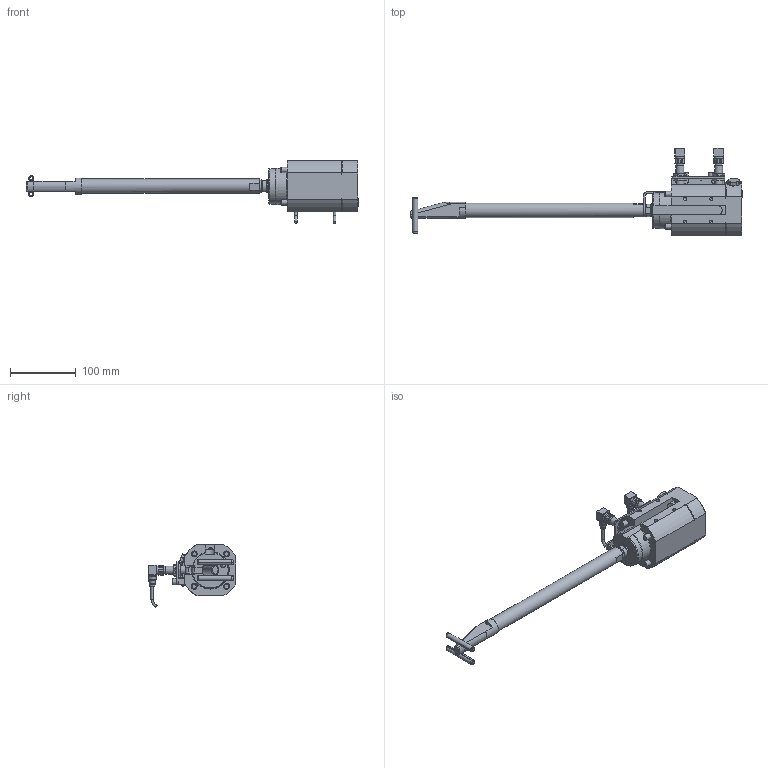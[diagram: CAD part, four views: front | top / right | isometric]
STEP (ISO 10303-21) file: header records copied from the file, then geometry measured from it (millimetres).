
FILE_DESCRIPTION(/* description */ (''),/* implementation_level */ '2;1');
FILE_NAME(/* name */ 'Z:\Standard products\1. QMC Clamping Systems\6. HECS - Integrated Wedge Clamp\HECS-40\HECS-40-2710-2 (24-07-17).stp',/* time_stamp */ '2017-07-24T14:32:43+02:00',/* author */ ('breep'),/* organization */ (''),/* preprocessor_version */ 'ST-DEVELOPER v16.1',/* originating_system */ 'Autodesk Inventor 2016',/* authorisation */ '');
FILE_SCHEMA (('AUTOMOTIVE_DESIGN { 1 0 10303 214 3 1 1 }'));
Length unit declared in the file: millimetre
Products named in the file (1): Part1
Bounding box: 506.25 x 133.96 x 95.75 mm (x, y, z)
Volume: 768620.6 mm3; surface area: 160107.1 mm2
Topology: 4 solids, 30 shells, 851 faces, 2078 edges, 1314 vertices
Faces by surface type: plane 342, cylinder 279, cone 124, torus 74, sphere 20, bspline 12
Full cylindrical faces by diameter (mm): 0.5 x8, 4 x2, 4.917 x8, 5 x7, 6 x3, 6.3 x2, 6.647 x1, 7 x5, 8 x5, 9 x6, 9.5 x2, 10 x2, 10.8 x2, 11 x3, 11.43 x2, 11.6 x2, 11.835 x3, 12 x4, 13 x4, 14 x2, 14.5 x5, 15 x1, 19.38 x1, 19.98 x2, 20 x3, 21 x2, 22 x1, 22.5 x2, 25.5 x2, 26.663 x2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
Entity records: 24800 total; most frequent: CARTESIAN_POINT 5644, DIRECTION 3870, ORIENTED_EDGE 3392, EDGE_CURVE 1695, AXIS2_PLACEMENT_3D 1549, VERTEX_POINT 1205, EDGE_LOOP 1176, STYLED_ITEM 852
